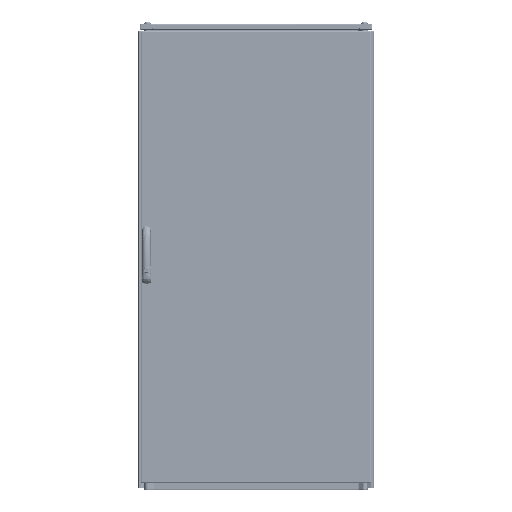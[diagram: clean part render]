
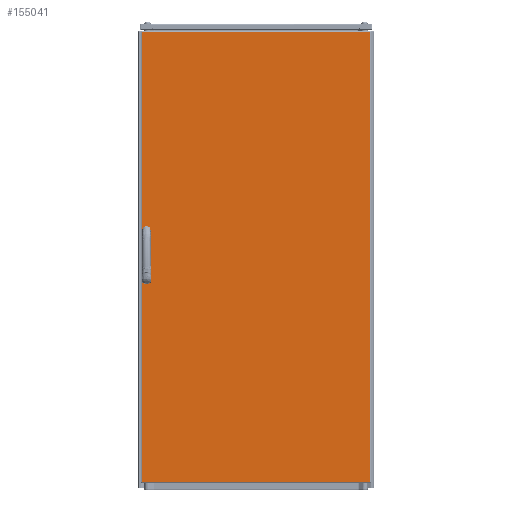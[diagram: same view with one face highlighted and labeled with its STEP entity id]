
A CAD part, top view. The second image highlights one B-rep face of the part: STEP entity #155041.
In plain terms, the highlighted planar face has unit normal (0, 0, 1).
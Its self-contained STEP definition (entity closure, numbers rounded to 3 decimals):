
#635 = EDGE_CURVE ( 'NONE', #122983, #163688, #79198, .T. ) ;
#4781 = VERTEX_POINT ( 'NONE', #217139 ) ;
#4917 = CIRCLE ( 'NONE', #119097, 9.5 ) ;
#9207 = CARTESIAN_POINT ( 'NONE',  ( 28.7, 860.25, 19. ) ) ;
#10170 = ORIENTED_EDGE ( 'NONE', *, *, #279541, .F. ) ;
#12911 = LINE ( 'NONE', #107824, #115131 ) ;
#15711 = DIRECTION ( 'NONE',  ( 0., 1., 0. ) ) ;
#17486 = VECTOR ( 'NONE', #15711, 1000. ) ;
#19347 = CARTESIAN_POINT ( 'NONE',  ( 0., 1557., 19. ) ) ;
#21303 = DIRECTION ( 'NONE',  ( 0., 0., -1. ) ) ;
#23828 = EDGE_CURVE ( 'NONE', #70187, #241213, #200910, .T. ) ;
#24355 = FACE_BOUND ( 'NONE', #184085, .T. ) ;
#31201 = VECTOR ( 'NONE', #255262, 1000. ) ;
#31469 = EDGE_CURVE ( 'NONE', #291074, #264188, #278934, .T. ) ;
#33045 = AXIS2_PLACEMENT_3D ( 'NONE', #221996, #169168, #220466 ) ;
#39533 = CIRCLE ( 'NONE', #128819, 9.5 ) ;
#47072 = CARTESIAN_POINT ( 'NONE',  ( 9.7, 699.75, 19. ) ) ;
#48936 = ORIENTED_EDGE ( 'NONE', *, *, #107258, .F. ) ;
#54636 = ORIENTED_EDGE ( 'NONE', *, *, #130509, .F. ) ;
#62332 = VERTEX_POINT ( 'NONE', #47072 ) ;
#65928 = VECTOR ( 'NONE', #299566, 1000. ) ;
#66030 = LINE ( 'NONE', #307229, #163369 ) ;
#66138 = ORIENTED_EDGE ( 'NONE', *, *, #31469, .T. ) ;
#68257 = EDGE_CURVE ( 'NONE', #304389, #291074, #232525, .T. ) ;
#70187 = VERTEX_POINT ( 'NONE', #262851 ) ;
#79198 = LINE ( 'NONE', #9207, #94374 ) ;
#80736 = DIRECTION ( 'NONE',  ( 0., 1., 0. ) ) ;
#88126 = EDGE_LOOP ( 'NONE', ( #54636, #228016, #170905, #254837 ) ) ;
#89746 = CARTESIAN_POINT ( 'NONE',  ( 0., 1560., 19. ) ) ;
#94374 = VECTOR ( 'NONE', #80736, 1000. ) ;
#95497 = AXIS2_PLACEMENT_3D ( 'NONE', #305634, #118769, #237033 ) ;
#107258 = EDGE_CURVE ( 'NONE', #241213, #4781, #39533, .T. ) ;
#107824 = CARTESIAN_POINT ( 'NONE',  ( 9.7, 860.25, 19. ) ) ;
#114643 = FACE_OUTER_BOUND ( 'NONE', #289777, .T. ) ;
#115131 = VECTOR ( 'NONE', #202706, 1000. ) ;
#116962 = CARTESIAN_POINT ( 'NONE',  ( 3., 3., 19. ) ) ;
#118769 = DIRECTION ( 'NONE',  ( 0., 0., 1. ) ) ;
#119097 = AXIS2_PLACEMENT_3D ( 'NONE', #271396, #153057, #248016 ) ;
#119525 = CARTESIAN_POINT ( 'NONE',  ( 28.7, 812.25, 19. ) ) ;
#122385 = CARTESIAN_POINT ( 'NONE',  ( 792., 3., 19. ) ) ;
#122983 = VERTEX_POINT ( 'NONE', #119525 ) ;
#125301 = EDGE_CURVE ( 'NONE', #4781, #62332, #66030, .T. ) ;
#127905 = ORIENTED_EDGE ( 'NONE', *, *, #230763, .T. ) ;
#128004 = VERTEX_POINT ( 'NONE', #271473 ) ;
#128819 = AXIS2_PLACEMENT_3D ( 'NONE', #185328, #132498, #280349 ) ;
#130509 = EDGE_CURVE ( 'NONE', #128004, #295899, #12911, .T. ) ;
#131112 = DIRECTION ( 'NONE',  ( 0., -1., 0. ) ) ;
#132498 = DIRECTION ( 'NONE',  ( 0., 0., 1. ) ) ;
#142553 = DIRECTION ( 'NONE',  ( -1., 0., 0. ) ) ;
#143175 = DIRECTION ( 'NONE',  ( 1., 0., 0. ) ) ;
#149881 = VECTOR ( 'NONE', #131112, 1000. ) ;
#153057 = DIRECTION ( 'NONE',  ( 0., 0., 1. ) ) ;
#155041 = ADVANCED_FACE ( 'NONE', ( #24355, #190799, #114643 ), #257810, .F. ) ;
#156100 = AXIS2_PLACEMENT_3D ( 'NONE', #89746, #21303, #142553 ) ;
#157497 = CARTESIAN_POINT ( 'NONE',  ( 3., 1560., 19. ) ) ;
#163369 = VECTOR ( 'NONE', #305710, 1000. ) ;
#163688 = VERTEX_POINT ( 'NONE', #267176 ) ;
#169168 = DIRECTION ( 'NONE',  ( 0., 0., 1. ) ) ;
#170905 = ORIENTED_EDGE ( 'NONE', *, *, #635, .F. ) ;
#173308 = CARTESIAN_POINT ( 'NONE',  ( 9.7, 812.25, 19. ) ) ;
#184085 = EDGE_LOOP ( 'NONE', ( #293413, #48936, #190961, #10170 ) ) ;
#185328 = CARTESIAN_POINT ( 'NONE',  ( 19.2, 747.75, 19. ) ) ;
#189873 = CIRCLE ( 'NONE', #95497, 9.5 ) ;
#190799 = FACE_BOUND ( 'NONE', #88126, .T. ) ;
#190961 = ORIENTED_EDGE ( 'NONE', *, *, #23828, .F. ) ;
#192531 = CARTESIAN_POINT ( 'NONE',  ( 3., 1557., 19. ) ) ;
#200910 = LINE ( 'NONE', #228868, #17486 ) ;
#202706 = DIRECTION ( 'NONE',  ( 0., -1., 0. ) ) ;
#203762 = ORIENTED_EDGE ( 'NONE', *, *, #205736, .T. ) ;
#205736 = EDGE_CURVE ( 'NONE', #240422, #304389, #215382, .T. ) ;
#209627 = ORIENTED_EDGE ( 'NONE', *, *, #68257, .T. ) ;
#210167 = CARTESIAN_POINT ( 'NONE',  ( 0., 3., 19. ) ) ;
#215382 = LINE ( 'NONE', #287055, #31201 ) ;
#217139 = CARTESIAN_POINT ( 'NONE',  ( 9.7, 747.75, 19. ) ) ;
#217540 = CARTESIAN_POINT ( 'NONE',  ( 792., 1557., 19. ) ) ;
#220466 = DIRECTION ( 'NONE',  ( 1., 0., 0. ) ) ;
#221996 = CARTESIAN_POINT ( 'NONE',  ( 19.2, 860.25, 19. ) ) ;
#224015 = VECTOR ( 'NONE', #143175, 1000. ) ;
#226145 = EDGE_CURVE ( 'NONE', #163688, #128004, #262329, .T. ) ;
#228016 = ORIENTED_EDGE ( 'NONE', *, *, #226145, .F. ) ;
#228868 = CARTESIAN_POINT ( 'NONE',  ( 28.7, 747.75, 19. ) ) ;
#230763 = EDGE_CURVE ( 'NONE', #264188, #240422, #286417, .T. ) ;
#232525 = LINE ( 'NONE', #19347, #65928 ) ;
#237033 = DIRECTION ( 'NONE',  ( 1., 0., 0. ) ) ;
#240422 = VERTEX_POINT ( 'NONE', #122385 ) ;
#241213 = VERTEX_POINT ( 'NONE', #287828 ) ;
#248016 = DIRECTION ( 'NONE',  ( 1., 0., 0. ) ) ;
#254837 = ORIENTED_EDGE ( 'NONE', *, *, #292972, .F. ) ;
#255262 = DIRECTION ( 'NONE',  ( 0., 1., 0. ) ) ;
#257810 = PLANE ( 'NONE',  #156100 ) ;
#262329 = CIRCLE ( 'NONE', #33045, 9.5 ) ;
#262851 = CARTESIAN_POINT ( 'NONE',  ( 28.7, 699.75, 19. ) ) ;
#264188 = VERTEX_POINT ( 'NONE', #116962 ) ;
#267176 = CARTESIAN_POINT ( 'NONE',  ( 28.7, 860.25, 19. ) ) ;
#271396 = CARTESIAN_POINT ( 'NONE',  ( 19.2, 699.75, 19. ) ) ;
#271473 = CARTESIAN_POINT ( 'NONE',  ( 9.7, 860.25, 19. ) ) ;
#278934 = LINE ( 'NONE', #157497, #149881 ) ;
#279541 = EDGE_CURVE ( 'NONE', #62332, #70187, #4917, .T. ) ;
#280349 = DIRECTION ( 'NONE',  ( 1., 0., 0. ) ) ;
#286417 = LINE ( 'NONE', #210167, #224015 ) ;
#287055 = CARTESIAN_POINT ( 'NONE',  ( 792., 1560., 19. ) ) ;
#287828 = CARTESIAN_POINT ( 'NONE',  ( 28.7, 747.75, 19. ) ) ;
#289777 = EDGE_LOOP ( 'NONE', ( #203762, #209627, #66138, #127905 ) ) ;
#291074 = VERTEX_POINT ( 'NONE', #192531 ) ;
#292972 = EDGE_CURVE ( 'NONE', #295899, #122983, #189873, .T. ) ;
#293413 = ORIENTED_EDGE ( 'NONE', *, *, #125301, .F. ) ;
#295899 = VERTEX_POINT ( 'NONE', #173308 ) ;
#299566 = DIRECTION ( 'NONE',  ( -1., 0., 0. ) ) ;
#304389 = VERTEX_POINT ( 'NONE', #217540 ) ;
#305634 = CARTESIAN_POINT ( 'NONE',  ( 19.2, 812.25, 19. ) ) ;
#305710 = DIRECTION ( 'NONE',  ( 0., -1., 0. ) ) ;
#307229 = CARTESIAN_POINT ( 'NONE',  ( 9.7, 747.75, 19. ) ) ;
